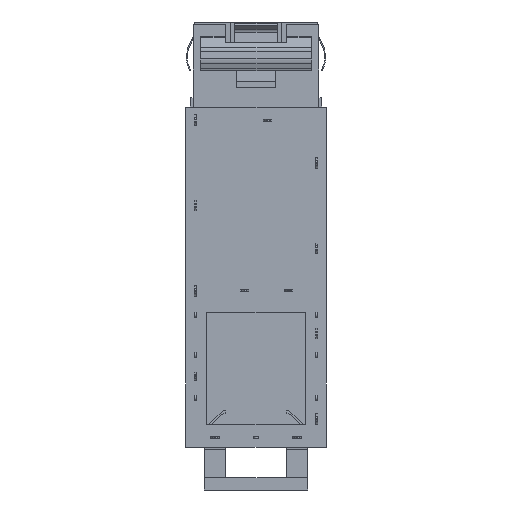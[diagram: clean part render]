
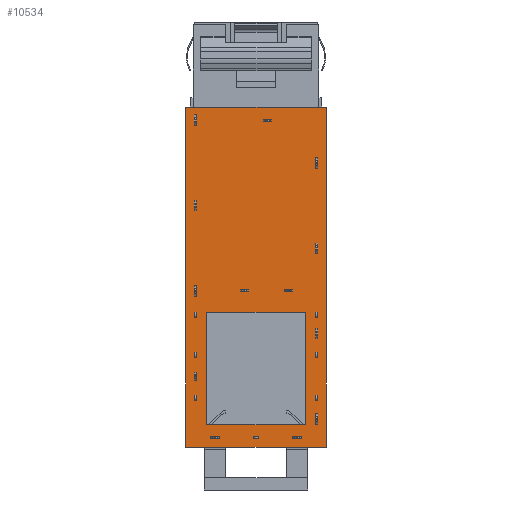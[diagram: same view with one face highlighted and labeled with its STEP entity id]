
A CAD part, front view. The second image highlights one B-rep face of the part: STEP entity #10534.
In plain terms, the highlighted planar face has unit normal (0, -1, 0).
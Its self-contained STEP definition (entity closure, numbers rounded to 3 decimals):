
#71 = ORIENTED_EDGE ( 'NONE', *, *, #16555, .T. ) ;
#358 = CARTESIAN_POINT ( 'NONE',  ( -8.25, -0.5, -10. ) ) ;
#444 = FACE_OUTER_BOUND ( 'NONE', #12195, .T. ) ;
#758 = VERTEX_POINT ( 'NONE', #3100 ) ;
#984 = ORIENTED_EDGE ( 'NONE', *, *, #4715, .T. ) ;
#1362 = LINE ( 'NONE', #10149, #13645 ) ;
#3100 = CARTESIAN_POINT ( 'NONE',  ( 8.25, -0.5, -10. ) ) ;
#3531 = CARTESIAN_POINT ( 'NONE',  ( 5.75, -0.5, -34. ) ) ;
#4420 = CARTESIAN_POINT ( 'NONE',  ( -5.75, -0.5, -47.2 ) ) ;
#4466 = CARTESIAN_POINT ( 'NONE',  ( 8.25, -0.5, -10. ) ) ;
#4715 = EDGE_CURVE ( 'NONE', #19174, #758, #8169, .T. ) ;
#4777 = CARTESIAN_POINT ( 'NONE',  ( -8.25, -0.5, -49.8 ) ) ;
#4954 = ORIENTED_EDGE ( 'NONE', *, *, #6393, .F. ) ;
#5072 = LINE ( 'NONE', #18527, #13247 ) ;
#5175 = EDGE_CURVE ( 'NONE', #16094, #13544, #15387, .T. ) ;
#5625 = DIRECTION ( 'NONE',  ( 1., 0., 0. ) ) ;
#5927 = CARTESIAN_POINT ( 'NONE',  ( 5.75, -0.5, -47.2 ) ) ;
#6014 = DIRECTION ( 'NONE',  ( 0., 0., 1. ) ) ;
#6046 = VERTEX_POINT ( 'NONE', #4777 ) ;
#6208 = PLANE ( 'NONE',  #14486 ) ;
#6226 = DIRECTION ( 'NONE',  ( 0., 0., -1. ) ) ;
#6393 = EDGE_CURVE ( 'NONE', #18608, #16094, #1362, .T. ) ;
#6559 = LINE ( 'NONE', #9196, #18839 ) ;
#6846 = CARTESIAN_POINT ( 'NONE',  ( -8.25, -0.5, -49.8 ) ) ;
#6877 = EDGE_LOOP ( 'NONE', ( #4954, #10932, #18413, #15334 ) ) ;
#7735 = DIRECTION ( 'NONE',  ( 0., 0., -1. ) ) ;
#8169 = LINE ( 'NONE', #4466, #19981 ) ;
#9196 = CARTESIAN_POINT ( 'NONE',  ( -8.25, -0.5, -10. ) ) ;
#9355 = EDGE_CURVE ( 'NONE', #14079, #6046, #6559, .T. ) ;
#9419 = CARTESIAN_POINT ( 'NONE',  ( -5.75, -0.5, -34. ) ) ;
#10149 = CARTESIAN_POINT ( 'NONE',  ( -5.75, -0.5, -47.2 ) ) ;
#10534 = ADVANCED_FACE ( 'NONE', ( #444, #19941 ), #6208, .T. ) ;
#10932 = ORIENTED_EDGE ( 'NONE', *, *, #19307, .F. ) ;
#11263 = VECTOR ( 'NONE', #16467, 1000. ) ;
#12195 = EDGE_LOOP ( 'NONE', ( #14255, #18069, #984, #71 ) ) ;
#12345 = VECTOR ( 'NONE', #17607, 1000. ) ;
#13000 = DIRECTION ( 'NONE',  ( -1., 0., 0. ) ) ;
#13247 = VECTOR ( 'NONE', #6226, 1000. ) ;
#13268 = LINE ( 'NONE', #17575, #13482 ) ;
#13482 = VECTOR ( 'NONE', #13000, 1000. ) ;
#13544 = VERTEX_POINT ( 'NONE', #3531 ) ;
#13645 = VECTOR ( 'NONE', #5625, 1000. ) ;
#13820 = LINE ( 'NONE', #6846, #16919 ) ;
#14079 = VERTEX_POINT ( 'NONE', #358 ) ;
#14255 = ORIENTED_EDGE ( 'NONE', *, *, #9355, .T. ) ;
#14486 = AXIS2_PLACEMENT_3D ( 'NONE', #15429, #16949, #7735 ) ;
#14939 = CARTESIAN_POINT ( 'NONE',  ( 5.75, -0.5, -34. ) ) ;
#15329 = EDGE_CURVE ( 'NONE', #13544, #19369, #13268, .T. ) ;
#15334 = ORIENTED_EDGE ( 'NONE', *, *, #5175, .F. ) ;
#15387 = LINE ( 'NONE', #14939, #11263 ) ;
#15429 = CARTESIAN_POINT ( 'NONE',  ( 0., -0.5, 0. ) ) ;
#15431 = CARTESIAN_POINT ( 'NONE',  ( 8.25, -0.5, -49.8 ) ) ;
#15980 = LINE ( 'NONE', #19293, #12345 ) ;
#16063 = DIRECTION ( 'NONE',  ( 1., 0., 0. ) ) ;
#16094 = VERTEX_POINT ( 'NONE', #5927 ) ;
#16447 = EDGE_CURVE ( 'NONE', #6046, #19174, #13820, .T. ) ;
#16467 = DIRECTION ( 'NONE',  ( 0., 0., 1. ) ) ;
#16555 = EDGE_CURVE ( 'NONE', #758, #14079, #15980, .T. ) ;
#16865 = DIRECTION ( 'NONE',  ( 0., 0., -1. ) ) ;
#16919 = VECTOR ( 'NONE', #16063, 1000. ) ;
#16949 = DIRECTION ( 'NONE',  ( 0., -1., 0. ) ) ;
#17575 = CARTESIAN_POINT ( 'NONE',  ( -5.75, -0.5, -34. ) ) ;
#17607 = DIRECTION ( 'NONE',  ( -1., 0., 0. ) ) ;
#18069 = ORIENTED_EDGE ( 'NONE', *, *, #16447, .T. ) ;
#18413 = ORIENTED_EDGE ( 'NONE', *, *, #15329, .F. ) ;
#18527 = CARTESIAN_POINT ( 'NONE',  ( -5.75, -0.5, -34. ) ) ;
#18608 = VERTEX_POINT ( 'NONE', #4420 ) ;
#18839 = VECTOR ( 'NONE', #16865, 1000. ) ;
#19174 = VERTEX_POINT ( 'NONE', #15431 ) ;
#19293 = CARTESIAN_POINT ( 'NONE',  ( -8.25, -0.5, -10. ) ) ;
#19307 = EDGE_CURVE ( 'NONE', #19369, #18608, #5072, .T. ) ;
#19369 = VERTEX_POINT ( 'NONE', #9419 ) ;
#19941 = FACE_BOUND ( 'NONE', #6877, .T. ) ;
#19981 = VECTOR ( 'NONE', #6014, 1000. ) ;
